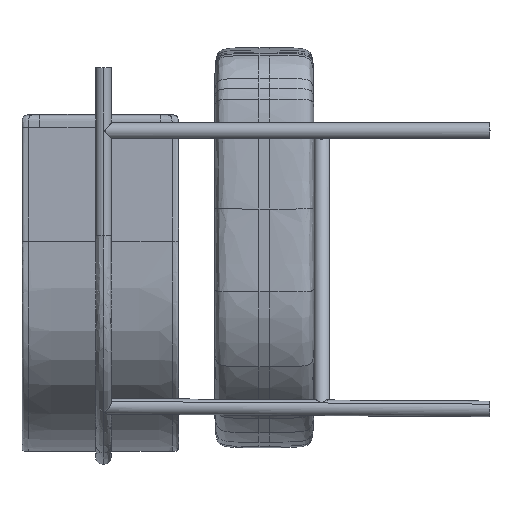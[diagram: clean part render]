
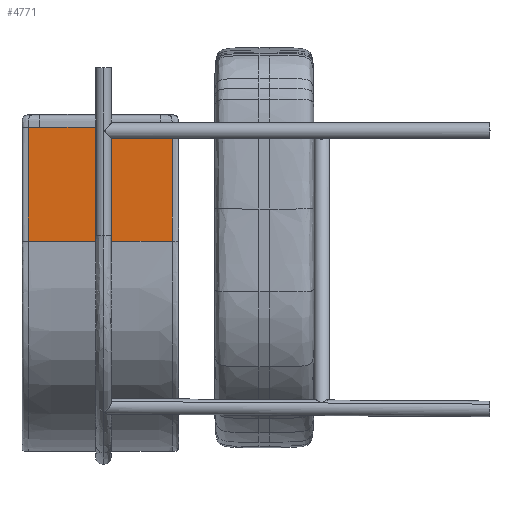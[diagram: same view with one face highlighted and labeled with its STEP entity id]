
A CAD part, left-side view. The second image highlights one B-rep face of the part: STEP entity #4771.
In plain terms, the highlighted planar face has unit normal (-1, 0, -0.01) as drawn and (-1, 0, 0) by its records, which use the part's own axes.
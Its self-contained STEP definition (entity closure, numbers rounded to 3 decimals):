
#118 = CARTESIAN_POINT ( 'NONE',  ( -126., -114., -50.151 ) ) ;
#414 = CARTESIAN_POINT ( 'NONE',  ( -126., -31.943, 69.982 ) ) ;
#533 = VERTEX_POINT ( 'NONE', #12260 ) ;
#1358 = EDGE_CURVE ( 'NONE', #5018, #13629, #11805, .T. ) ;
#1593 = CARTESIAN_POINT ( 'NONE',  ( -126., 114., 9.916 ) ) ;
#2797 = CARTESIAN_POINT ( 'NONE',  ( -126., 114., -110.218 ) ) ;
#2878 = CARTESIAN_POINT ( 'NONE',  ( -126., -107.943, 69.982 ) ) ;
#3084 = CARTESIAN_POINT ( 'NONE',  ( -126., 95.828, 69.982 ) ) ;
#3464 = CARTESIAN_POINT ( 'NONE',  ( -126., -114., 69.982 ) ) ;
#3908 = AXIS2_PLACEMENT_3D ( 'NONE', #12700, #14343, #20605 ) ;
#4771 = ADVANCED_FACE ( 'NONE', ( #7425 ), #14032, .F. ) ;
#4814 = VECTOR ( 'NONE', #18040, 1000. ) ;
#5018 = VERTEX_POINT ( 'NONE', #11279 ) ;
#5620 = VERTEX_POINT ( 'NONE', #18084 ) ;
#5730 = CARTESIAN_POINT ( 'NONE',  ( -126., 95.828, 69.982 ) ) ;
#6226 = ORIENTED_EDGE ( 'NONE', *, *, #9703, .T. ) ;
#6369 = CARTESIAN_POINT ( 'NONE',  ( -126., -114., 69.982 ) ) ;
#6585 = CARTESIAN_POINT ( 'NONE',  ( -126., 114., -110.218 ) ) ;
#6599 = CARTESIAN_POINT ( 'NONE',  ( -126., 101.885, 69.982 ) ) ;
#6694 = EDGE_CURVE ( 'NONE', #13629, #5620, #7631, .T. ) ;
#6969 = EDGE_CURVE ( 'NONE', #12693, #14779, #14802, .T. ) ;
#6982 = CARTESIAN_POINT ( 'NONE',  ( -126., -114., -110.218 ) ) ;
#7031 = CARTESIAN_POINT ( 'NONE',  ( -126., 31.943, 69.982 ) ) ;
#7140 = CARTESIAN_POINT ( 'NONE',  ( -126., -95.828, 69.982 ) ) ;
#7425 = FACE_OUTER_BOUND ( 'NONE', #13138, .T. ) ;
#7631 = B_SPLINE_CURVE_WITH_KNOTS ( 'NONE', 3,
 ( #20108, #6599, #16900, #13301 ),
 .UNSPECIFIED., .F., .F.,
 ( 4, 4 ),
 ( 0., 1. ),
 .UNSPECIFIED. ) ;
#7889 = CARTESIAN_POINT ( 'NONE',  ( -126., -101.886, 69.982 ) ) ;
#8566 = B_SPLINE_CURVE_WITH_KNOTS ( 'NONE', 3,
 ( #18058, #1593, #21384, #6585 ),
 .UNSPECIFIED., .F., .F.,
 ( 4, 4 ),
 ( 0.1, 1. ),
 .UNSPECIFIED. ) ;
#9703 = EDGE_CURVE ( 'NONE', #533, #5018, #10534, .T. ) ;
#9996 = EDGE_CURVE ( 'NONE', #5620, #12693, #8566, .T. ) ;
#10035 = B_SPLINE_CURVE_WITH_KNOTS ( 'NONE', 3,
 ( #18305, #118, #16266, #3464 ),
 .UNSPECIFIED., .F., .F.,
 ( 4, 4 ),
 ( 0., 0.9 ),
 .UNSPECIFIED. ) ;
#10534 = B_SPLINE_CURVE_WITH_KNOTS ( 'NONE', 3,
 ( #6369, #2878, #7889, #19450 ),
 .UNSPECIFIED., .F., .F.,
 ( 4, 4 ),
 ( 0., 1. ),
 .UNSPECIFIED. ) ;
#11031 = ORIENTED_EDGE ( 'NONE', *, *, #9996, .T. ) ;
#11279 = CARTESIAN_POINT ( 'NONE',  ( -126., -95.828, 69.982 ) ) ;
#11805 = B_SPLINE_CURVE_WITH_KNOTS ( 'NONE', 3,
 ( #7140, #414, #7031, #5730 ),
 .UNSPECIFIED., .F., .F.,
 ( 4, 4 ),
 ( 0., 1. ),
 .UNSPECIFIED. ) ;
#12260 = CARTESIAN_POINT ( 'NONE',  ( -126., -114., 69.982 ) ) ;
#12693 = VERTEX_POINT ( 'NONE', #2797 ) ;
#12700 = CARTESIAN_POINT ( 'NONE',  ( -126., 124., 89.982 ) ) ;
#13138 = EDGE_LOOP ( 'NONE', ( #14726, #6226, #19088, #17332, #11031, #14142 ) ) ;
#13301 = CARTESIAN_POINT ( 'NONE',  ( -126., 114., 69.982 ) ) ;
#13629 = VERTEX_POINT ( 'NONE', #3084 ) ;
#14032 = PLANE ( 'NONE',  #3908 ) ;
#14142 = ORIENTED_EDGE ( 'NONE', *, *, #6969, .T. ) ;
#14343 = DIRECTION ( 'NONE',  ( 1., 0., 0. ) ) ;
#14726 = ORIENTED_EDGE ( 'NONE', *, *, #18594, .T. ) ;
#14779 = VERTEX_POINT ( 'NONE', #6982 ) ;
#14802 = LINE ( 'NONE', #16324, #4814 ) ;
#16266 = CARTESIAN_POINT ( 'NONE',  ( -126., -114., 9.916 ) ) ;
#16324 = CARTESIAN_POINT ( 'NONE',  ( -126., 124., -110.218 ) ) ;
#16900 = CARTESIAN_POINT ( 'NONE',  ( -126., 107.943, 69.982 ) ) ;
#17332 = ORIENTED_EDGE ( 'NONE', *, *, #6694, .T. ) ;
#18040 = DIRECTION ( 'NONE',  ( 0., -1., 0. ) ) ;
#18058 = CARTESIAN_POINT ( 'NONE',  ( -126., 114., 69.982 ) ) ;
#18084 = CARTESIAN_POINT ( 'NONE',  ( -126., 114., 69.982 ) ) ;
#18305 = CARTESIAN_POINT ( 'NONE',  ( -126., -114., -110.218 ) ) ;
#18594 = EDGE_CURVE ( 'NONE', #14779, #533, #10035, .T. ) ;
#19088 = ORIENTED_EDGE ( 'NONE', *, *, #1358, .T. ) ;
#19450 = CARTESIAN_POINT ( 'NONE',  ( -126., -95.828, 69.982 ) ) ;
#20108 = CARTESIAN_POINT ( 'NONE',  ( -126., 95.828, 69.982 ) ) ;
#20605 = DIRECTION ( 'NONE',  ( 0., 1., 0. ) ) ;
#21384 = CARTESIAN_POINT ( 'NONE',  ( -126., 114., -50.151 ) ) ;
